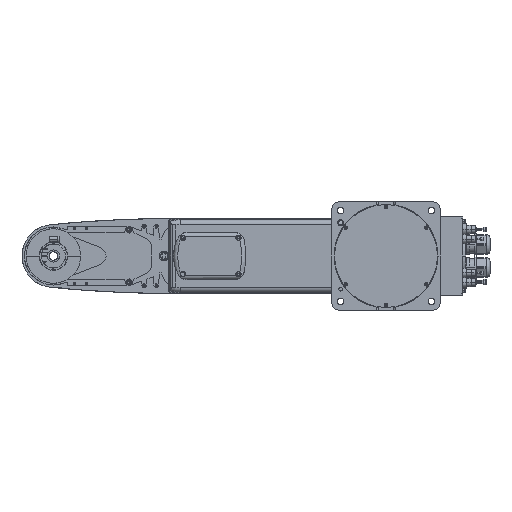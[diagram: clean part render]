
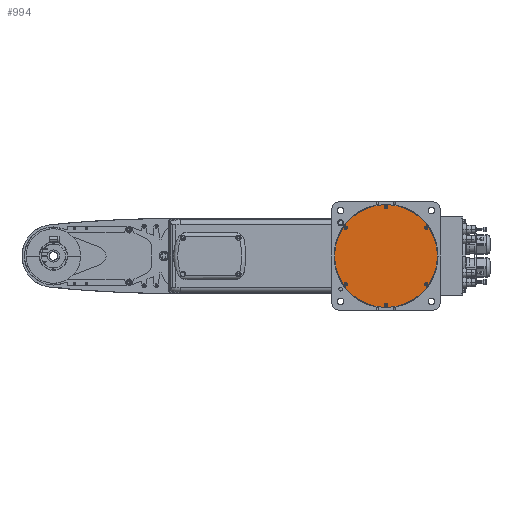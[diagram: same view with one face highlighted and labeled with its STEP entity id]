
A CAD part, front view. The second image highlights one B-rep face of the part: STEP entity #994.
In plain terms, the highlighted planar face has unit normal (0, -1, 0).
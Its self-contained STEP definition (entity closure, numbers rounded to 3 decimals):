
#994 = ADVANCED_FACE( '', ( #3464, #3465, #3466, #3467, #3468, #3469, #3470 ), #3471, .T. );
#3464 = FACE_BOUND( '', #7355, .T. );
#3465 = FACE_BOUND( '', #7356, .T. );
#3466 = FACE_BOUND( '', #7357, .T. );
#3467 = FACE_BOUND( '', #7358, .T. );
#3468 = FACE_BOUND( '', #7359, .T. );
#3469 = FACE_BOUND( '', #7360, .T. );
#3470 = FACE_OUTER_BOUND( '', #7361, .T. );
#3471 = PLANE( '', #7362 );
#7355 = EDGE_LOOP( '', ( #14427, #14428 ) );
#7356 = EDGE_LOOP( '', ( #14429, #14430 ) );
#7357 = EDGE_LOOP( '', ( #14431, #14432 ) );
#7358 = EDGE_LOOP( '', ( #14433, #14434 ) );
#7359 = EDGE_LOOP( '', ( #14435, #14436 ) );
#7360 = EDGE_LOOP( '', ( #14437, #14438 ) );
#7361 = EDGE_LOOP( '', ( #14439, #14440 ) );
#7362 = AXIS2_PLACEMENT_3D( '', #14441, #14442, #14443 );
#14427 = ORIENTED_EDGE( '', *, *, #25460, .T. );
#14428 = ORIENTED_EDGE( '', *, *, #24195, .T. );
#14429 = ORIENTED_EDGE( '', *, *, #25463, .T. );
#14430 = ORIENTED_EDGE( '', *, *, #24188, .T. );
#14431 = ORIENTED_EDGE( '', *, *, #25466, .T. );
#14432 = ORIENTED_EDGE( '', *, *, #24181, .T. );
#14433 = ORIENTED_EDGE( '', *, *, #25469, .T. );
#14434 = ORIENTED_EDGE( '', *, *, #24174, .T. );
#14435 = ORIENTED_EDGE( '', *, *, #25472, .T. );
#14436 = ORIENTED_EDGE( '', *, *, #24167, .T. );
#14437 = ORIENTED_EDGE( '', *, *, #25475, .T. );
#14438 = ORIENTED_EDGE( '', *, *, #24160, .T. );
#14439 = ORIENTED_EDGE( '', *, *, #24154, .T. );
#14440 = ORIENTED_EDGE( '', *, *, #25477, .T. );
#14441 = CARTESIAN_POINT( '', ( 42.5, -312., 0. ) );
#14442 = DIRECTION( '', ( 0., -1., 0. ) );
#14443 = DIRECTION( '', ( 1., 0., 0. ) );
#24154 = EDGE_CURVE( '', #28540, #28544, #28546, .T. );
#24160 = EDGE_CURVE( '', #28557, #28555, #28558, .T. );
#24167 = EDGE_CURVE( '', #28570, #28568, #28571, .T. );
#24174 = EDGE_CURVE( '', #28583, #28581, #28584, .T. );
#24181 = EDGE_CURVE( '', #28596, #28594, #28597, .T. );
#24188 = EDGE_CURVE( '', #28609, #28607, #28610, .T. );
#24195 = EDGE_CURVE( '', #28622, #28620, #28623, .T. );
#25460 = EDGE_CURVE( '', #28620, #28622, #30697, .T. );
#25463 = EDGE_CURVE( '', #28607, #28609, #30700, .T. );
#25466 = EDGE_CURVE( '', #28594, #28596, #30703, .T. );
#25469 = EDGE_CURVE( '', #28581, #28583, #30706, .T. );
#25472 = EDGE_CURVE( '', #28568, #28570, #30709, .T. );
#25475 = EDGE_CURVE( '', #28555, #28557, #30712, .T. );
#25477 = EDGE_CURVE( '', #28544, #28540, #30714, .T. );
#28540 = VERTEX_POINT( '', #35761 );
#28544 = VERTEX_POINT( '', #35766 );
#28546 = CIRCLE( '', #35769, 85. );
#28555 = VERTEX_POINT( '', #35780 );
#28557 = VERTEX_POINT( '', #35783 );
#28558 = CIRCLE( '', #35784, 2.75 );
#28568 = VERTEX_POINT( '', #35797 );
#28570 = VERTEX_POINT( '', #35800 );
#28571 = CIRCLE( '', #35801, 2.75 );
#28581 = VERTEX_POINT( '', #35814 );
#28583 = VERTEX_POINT( '', #35817 );
#28584 = CIRCLE( '', #35818, 2.75 );
#28594 = VERTEX_POINT( '', #35831 );
#28596 = VERTEX_POINT( '', #35834 );
#28597 = CIRCLE( '', #35835, 2.75 );
#28607 = VERTEX_POINT( '', #35848 );
#28609 = VERTEX_POINT( '', #35851 );
#28610 = CIRCLE( '', #35852, 2.75 );
#28620 = VERTEX_POINT( '', #35865 );
#28622 = VERTEX_POINT( '', #35868 );
#28623 = CIRCLE( '', #35869, 2.75 );
#30697 = CIRCLE( '', #38771, 2.75 );
#30700 = CIRCLE( '', #38774, 2.75 );
#30703 = CIRCLE( '', #38777, 2.75 );
#30706 = CIRCLE( '', #38780, 2.75 );
#30709 = CIRCLE( '', #38783, 2.75 );
#30712 = CIRCLE( '', #38786, 2.75 );
#30714 = CIRCLE( '', #38788, 85. );
#35761 = CARTESIAN_POINT( '', ( 85., -312., 0. ) );
#35766 = CARTESIAN_POINT( '', ( -85., -312., 0. ) );
#35769 = AXIS2_PLACEMENT_3D( '', #49334, #49335, #49336 );
#35780 = CARTESIAN_POINT( '', ( 0., -312., -78.25 ) );
#35783 = CARTESIAN_POINT( '', ( 0., -312., -83.75 ) );
#35784 = AXIS2_PLACEMENT_3D( '', #49346, #49347, #49348 );
#35797 = CARTESIAN_POINT( '', ( -66.351, -312., -43.71 ) );
#35800 = CARTESIAN_POINT( '', ( -66.351, -312., -49.21 ) );
#35801 = AXIS2_PLACEMENT_3D( '', #49359, #49360, #49361 );
#35814 = CARTESIAN_POINT( '', ( -66.351, -312., 49.21 ) );
#35817 = CARTESIAN_POINT( '', ( -66.351, -312., 43.71 ) );
#35818 = AXIS2_PLACEMENT_3D( '', #49372, #49373, #49374 );
#35831 = CARTESIAN_POINT( '', ( 66.351, -312., -43.71 ) );
#35834 = CARTESIAN_POINT( '', ( 66.351, -312., -49.21 ) );
#35835 = AXIS2_PLACEMENT_3D( '', #49385, #49386, #49387 );
#35848 = CARTESIAN_POINT( '', ( 66.351, -312., 49.21 ) );
#35851 = CARTESIAN_POINT( '', ( 66.351, -312., 43.71 ) );
#35852 = AXIS2_PLACEMENT_3D( '', #49398, #49399, #49400 );
#35865 = CARTESIAN_POINT( '', ( 0., -312., 83.75 ) );
#35868 = CARTESIAN_POINT( '', ( 0., -312., 78.25 ) );
#35869 = AXIS2_PLACEMENT_3D( '', #49411, #49412, #49413 );
#38771 = AXIS2_PLACEMENT_3D( '', #51550, #51551, #51552 );
#38774 = AXIS2_PLACEMENT_3D( '', #51559, #51560, #51561 );
#38777 = AXIS2_PLACEMENT_3D( '', #51568, #51569, #51570 );
#38780 = AXIS2_PLACEMENT_3D( '', #51577, #51578, #51579 );
#38783 = AXIS2_PLACEMENT_3D( '', #51586, #51587, #51588 );
#38786 = AXIS2_PLACEMENT_3D( '', #51595, #51596, #51597 );
#38788 = AXIS2_PLACEMENT_3D( '', #51601, #51602, #51603 );
#49334 = CARTESIAN_POINT( '', ( 0., -312., 0. ) );
#49335 = DIRECTION( '', ( 0., -1., 0. ) );
#49336 = DIRECTION( '', ( 1., 0., 0. ) );
#49346 = CARTESIAN_POINT( '', ( 0., -312., -81. ) );
#49347 = DIRECTION( '', ( 0., 1., 0. ) );
#49348 = DIRECTION( '', ( 0., 0., 1. ) );
#49359 = CARTESIAN_POINT( '', ( -66.351, -312., -46.46 ) );
#49360 = DIRECTION( '', ( 0., 1., 0. ) );
#49361 = DIRECTION( '', ( 0., 0., 1. ) );
#49372 = CARTESIAN_POINT( '', ( -66.351, -312., 46.46 ) );
#49373 = DIRECTION( '', ( 0., 1., 0. ) );
#49374 = DIRECTION( '', ( 0., 0., 1. ) );
#49385 = CARTESIAN_POINT( '', ( 66.351, -312., -46.46 ) );
#49386 = DIRECTION( '', ( 0., 1., 0. ) );
#49387 = DIRECTION( '', ( 0., 0., 1. ) );
#49398 = CARTESIAN_POINT( '', ( 66.351, -312., 46.46 ) );
#49399 = DIRECTION( '', ( 0., 1., 0. ) );
#49400 = DIRECTION( '', ( 0., 0., 1. ) );
#49411 = CARTESIAN_POINT( '', ( 0., -312., 81. ) );
#49412 = DIRECTION( '', ( 0., 1., 0. ) );
#49413 = DIRECTION( '', ( 0., 0., 1. ) );
#51550 = CARTESIAN_POINT( '', ( 0., -312., 81. ) );
#51551 = DIRECTION( '', ( 0., 1., 0. ) );
#51552 = DIRECTION( '', ( 0., 0., 1. ) );
#51559 = CARTESIAN_POINT( '', ( 66.351, -312., 46.46 ) );
#51560 = DIRECTION( '', ( 0., 1., 0. ) );
#51561 = DIRECTION( '', ( 0., 0., 1. ) );
#51568 = CARTESIAN_POINT( '', ( 66.351, -312., -46.46 ) );
#51569 = DIRECTION( '', ( 0., 1., 0. ) );
#51570 = DIRECTION( '', ( 0., 0., 1. ) );
#51577 = CARTESIAN_POINT( '', ( -66.351, -312., 46.46 ) );
#51578 = DIRECTION( '', ( 0., 1., 0. ) );
#51579 = DIRECTION( '', ( 0., 0., 1. ) );
#51586 = CARTESIAN_POINT( '', ( -66.351, -312., -46.46 ) );
#51587 = DIRECTION( '', ( 0., 1., 0. ) );
#51588 = DIRECTION( '', ( 0., 0., 1. ) );
#51595 = CARTESIAN_POINT( '', ( 0., -312., -81. ) );
#51596 = DIRECTION( '', ( 0., 1., 0. ) );
#51597 = DIRECTION( '', ( 0., 0., 1. ) );
#51601 = CARTESIAN_POINT( '', ( 0., -312., 0. ) );
#51602 = DIRECTION( '', ( 0., -1., 0. ) );
#51603 = DIRECTION( '', ( 1., 0., 0. ) );
